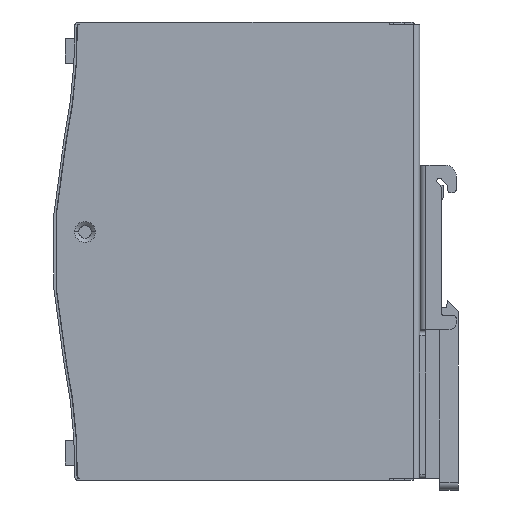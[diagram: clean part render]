
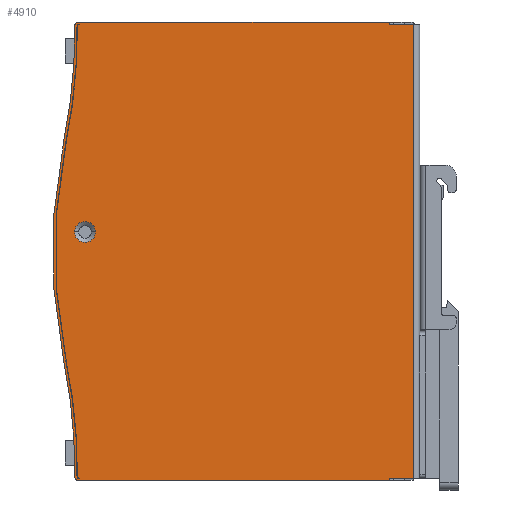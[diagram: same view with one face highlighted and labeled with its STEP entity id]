
A CAD part, front view. The second image highlights one B-rep face of the part: STEP entity #4910.
In plain terms, the highlighted planar face has unit normal (0, -1, 0).
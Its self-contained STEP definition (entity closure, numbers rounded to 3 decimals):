
#2430=CARTESIAN_POINT('',(1671.393,18.486,
8923.141));
#2440=VERTEX_POINT('',#2430);
#2470=CARTESIAN_POINT('',(1754.346,18.486,
8923.141));
#2480=DIRECTION('',(1.,0.,0.));
#2490=VECTOR('',#2480,1.);
#2500=LINE('',#2470,#2490);
#2510=CARTESIAN_POINT('',(1678.06,18.486,8923.141));
#2520=VERTEX_POINT('',#2510);
#2530=EDGE_CURVE('',#2440,#2520,#2500,.T.);
#2730=CARTESIAN_POINT('',(1768.013,18.486,
8997.141));
#2740=DIRECTION('',(0.,-1.,0.));
#2750=DIRECTION('',(1.,0.,0.));
#2760=AXIS2_PLACEMENT_3D('',#2730,#2740,#2750);
#2770=PLANE('',#2760);
#2780=CARTESIAN_POINT('',(1761.194,18.486,
8979.891));
#2790=DIRECTION('',(0.,1.,0.));
#2800=DIRECTION('',(1.,0.,0.));
#2810=AXIS2_PLACEMENT_3D('',#2780,#2790,#2800);
#2820=CIRCLE('',#2810,2.85);
#2830=CARTESIAN_POINT('',(1758.344,18.486,
8979.891));
#2840=VERTEX_POINT('',#2830);
#2850=CARTESIAN_POINT('',(1764.044,18.486,
8979.891));
#2860=VERTEX_POINT('',#2850);
#2870=EDGE_CURVE('',#2840,#2860,#2820,.T.);
#2880=ORIENTED_EDGE('',*,*,#2870,.T.);
#2890=EDGE_CURVE('',#2860,#2840,#2820,.T.);
#2900=ORIENTED_EDGE('',*,*,#2890,.T.);
#2910=EDGE_LOOP('',(#2900,#2880));
#2920=FACE_BOUND('',#2910,.T.);
#2930=CARTESIAN_POINT('',(1913.278,18.486,
9045.16));
#2940=DIRECTION('',(0.,-1.,0.));
#2950=DIRECTION('',(0.,0.,1.));
#2960=AXIS2_PLACEMENT_3D('',#2930,#2940,#2950);
#2970=CIRCLE('',#2960,150.);
#2980=CARTESIAN_POINT('',(1763.285,18.486,
9046.636));
#2990=VERTEX_POINT('',#2980);
#3000=CARTESIAN_POINT('',(1766.311,18.486,
9015.151));
#3010=VERTEX_POINT('',#3000);
#3020=EDGE_CURVE('',#2990,#3010,#2970,.T.);
#3030=ORIENTED_EDGE('',*,*,#3020,.F.);
#3040=CARTESIAN_POINT('',(1619.343,18.486,
8985.141));
#3050=DIRECTION('',(0.,-1.,0.));
#3060=DIRECTION('',(0.,0.,1.));
#3070=AXIS2_PLACEMENT_3D('',#3040,#3050,#3060);
#3080=CIRCLE('',#3070,150.);
#3090=CARTESIAN_POINT('',(1766.311,18.486,
8955.131));
#3100=VERTEX_POINT('',#3090);
#3110=EDGE_CURVE('',#3100,#3010,#3080,.T.);
#3120=ORIENTED_EDGE('',*,*,#3110,.T.);
#3130=CARTESIAN_POINT('',(1913.278,18.486,
8925.122));
#3140=DIRECTION('',(0.,-1.,0.));
#3150=DIRECTION('',(0.,0.,1.));
#3160=AXIS2_PLACEMENT_3D('',#3130,#3140,#3150);
#3170=CIRCLE('',#3160,150.);
#3180=CARTESIAN_POINT('',(1763.285,18.486,
8923.646));
#3190=VERTEX_POINT('',#3180);
#3200=EDGE_CURVE('',#3100,#3190,#3170,.T.);
#3210=ORIENTED_EDGE('',*,*,#3200,.F.);
#3220=CARTESIAN_POINT('',(1762.785,18.486,
8923.641));
#3230=DIRECTION('',(0.,-1.,0.));
#3240=DIRECTION('',(1.,0.,0.));
#3250=AXIS2_PLACEMENT_3D('',#3220,#3230,#3240);
#3260=CIRCLE('',#3250,0.5);
#3270=CARTESIAN_POINT('',(1762.785,18.486,8923.141));
#3280=VERTEX_POINT('',#3270);
#3290=EDGE_CURVE('',#3280,#3190,#3260,.T.);
#3300=ORIENTED_EDGE('',*,*,#3290,.T.);
#3310=CARTESIAN_POINT('',(1668.443,18.486,8923.141));
#3320=DIRECTION('',(1.,0.,0.));
#3330=VECTOR('',#3320,1.);
#3340=LINE('',#3310,#3330);
#3350=CARTESIAN_POINT('',(1762.884,18.486,8923.141));
#3360=VERTEX_POINT('',#3350);
#3370=EDGE_CURVE('',#3280,#3360,#3340,.T.);
#3380=ORIENTED_EDGE('',*,*,#3370,.F.);
#3390=CARTESIAN_POINT('',(1762.884,18.486,8923.641));
#3400=DIRECTION('',(0.,-1.,0.));
#3410=DIRECTION('',(1.,0.,0.));
#3420=AXIS2_PLACEMENT_3D('',#3390,#3400,#3410);
#3430=CIRCLE('',#3420,0.5);
#3440=CARTESIAN_POINT('',(1763.384,18.486,8923.646));
#3450=VERTEX_POINT('',#3440);
#3460=EDGE_CURVE('',#3360,#3450,#3430,.T.);
#3470=ORIENTED_EDGE('',*,*,#3460,.F.);
#3480=CARTESIAN_POINT('',(1914.409,18.486,8925.028));
#3490=DIRECTION('',(0.,-1.,0.));
#3500=DIRECTION('',(1.,0.,0.));
#3510=AXIS2_PLACEMENT_3D('',#3480,#3490,#3500);
#3520=CIRCLE('',#3510,151.031);
#3530=CARTESIAN_POINT('',(1766.413,18.486,8955.151));
#3540=VERTEX_POINT('',#3530);
#3550=EDGE_CURVE('',#3540,#3450,#3520,.T.);
#3560=ORIENTED_EDGE('',*,*,#3550,.T.);
#3570=CARTESIAN_POINT('',(1619.543,18.486,8985.141));
#3580=DIRECTION('',(0.,-1.,0.));
#3590=DIRECTION('',(1.,0.,0.));
#3600=AXIS2_PLACEMENT_3D('',#3570,#3580,#3590);
#3610=CIRCLE('',#3600,149.9);
#3620=CARTESIAN_POINT('',(1766.413,18.486,9015.131));
#3630=VERTEX_POINT('',#3620);
#3640=EDGE_CURVE('',#3540,#3630,#3610,.T.);
#3650=ORIENTED_EDGE('',*,*,#3640,.F.);
#3660=CARTESIAN_POINT('',(1914.409,18.486,9045.254));
#3670=DIRECTION('',(0.,-1.,0.));
#3680=DIRECTION('',(1.,0.,0.));
#3690=AXIS2_PLACEMENT_3D('',#3660,#3670,#3680);
#3700=CIRCLE('',#3690,151.031);
#3710=CARTESIAN_POINT('',(1763.384,18.486,9046.636));
#3720=VERTEX_POINT('',#3710);
#3730=EDGE_CURVE('',#3720,#3630,#3700,.T.);
#3740=ORIENTED_EDGE('',*,*,#3730,.T.);
#3750=CARTESIAN_POINT('',(1762.884,18.486,9046.641));
#3760=DIRECTION('',(0.,-1.,0.));
#3770=DIRECTION('',(1.,0.,0.));
#3780=AXIS2_PLACEMENT_3D('',#3750,#3760,#3770);
#3790=CIRCLE('',#3780,0.5);
#3800=CARTESIAN_POINT('',(1762.884,18.486,9047.141));
#3810=VERTEX_POINT('',#3800);
#3820=EDGE_CURVE('',#3720,#3810,#3790,.T.);
#3830=ORIENTED_EDGE('',*,*,#3820,.F.);
#3840=CARTESIAN_POINT('',(1759.25,18.486,9047.141));
#3850=DIRECTION('',(-1.,0.,0.));
#3860=VECTOR('',#3850,1.);
#3870=LINE('',#3840,#3860);
#3880=CARTESIAN_POINT('',(1762.785,18.486,9047.141));
#3890=VERTEX_POINT('',#3880);
#3900=EDGE_CURVE('',#3810,#3890,#3870,.T.);
#3910=ORIENTED_EDGE('',*,*,#3900,.F.);
#3920=CARTESIAN_POINT('',(1762.785,18.486,
9046.641));
#3930=DIRECTION('',(0.,-1.,0.));
#3940=DIRECTION('',(1.,0.,0.));
#3950=AXIS2_PLACEMENT_3D('',#3920,#3930,#3940);
#3960=CIRCLE('',#3950,0.5);
#3970=EDGE_CURVE('',#2990,#3890,#3960,.T.);
#3980=ORIENTED_EDGE('',*,*,#3970,.T.);
#3990=EDGE_LOOP('',(#3980,#3910,#3830,#3740,#3650,#3560,#3470,#3380,
#3300,#3210,#3120,#3030));
#4000=FACE_BOUND('',#3990,.T.);
#4010=CARTESIAN_POINT('',(1678.06,18.486,31.311));
#4020=DIRECTION('',(0.,0.,1.));
#4030=VECTOR('',#4020,1.);
#4040=LINE('',#4010,#4030);
#4050=CARTESIAN_POINT('',(1678.06,18.486,9047.141));
#4060=VERTEX_POINT('',#4050);
#4070=CARTESIAN_POINT('',(1678.06,18.486,9047.741));
#4080=VERTEX_POINT('',#4070);
#4090=EDGE_CURVE('',#4060,#4080,#4040,.T.);
#4100=ORIENTED_EDGE('',*,*,#4090,.F.);
#4110=CARTESIAN_POINT('',(1667.843,18.486,9047.741));
#4120=DIRECTION('',(1.,0.,0.));
#4130=VECTOR('',#4120,1.);
#4140=LINE('',#4110,#4130);
#4150=CARTESIAN_POINT('',(1762.985,18.486,9047.741));
#4160=VERTEX_POINT('',#4150);
#4170=EDGE_CURVE('',#4080,#4160,#4140,.T.);
#4180=ORIENTED_EDGE('',*,*,#4170,.F.);
#4190=CARTESIAN_POINT('',(1762.985,18.486,9046.741));
#4200=DIRECTION('',(0.,-1.,0.));
#4210=DIRECTION('',(1.,0.,0.));
#4220=AXIS2_PLACEMENT_3D('',#4190,#4200,#4210);
#4230=CIRCLE('',#4220,1.);
#4240=CARTESIAN_POINT('',(1763.985,18.486,9046.731));
#4250=VERTEX_POINT('',#4240);
#4260=EDGE_CURVE('',#4250,#4160,#4230,.T.);
#4270=ORIENTED_EDGE('',*,*,#4260,.T.);
#4280=CARTESIAN_POINT('',(1914.392,18.486,9045.252));
#4290=DIRECTION('',(0.,-1.,0.));
#4300=DIRECTION('',(1.,0.,0.));
#4310=AXIS2_PLACEMENT_3D('',#4280,#4290,#4300);
#4320=CIRCLE('',#4310,150.414);
#4330=CARTESIAN_POINT('',(1767.001,18.486,9015.251));
#4340=VERTEX_POINT('',#4330);
#4350=EDGE_CURVE('',#4250,#4340,#4320,.T.);
#4360=ORIENTED_EDGE('',*,*,#4350,.F.);
#4370=CARTESIAN_POINT('',(1619.543,18.486,8985.141));
#4380=DIRECTION('',(0.,-1.,0.));
#4390=DIRECTION('',(1.,0.,0.));
#4400=AXIS2_PLACEMENT_3D('',#4370,#4380,#4390);
#4410=CIRCLE('',#4400,150.5);
#4420=CARTESIAN_POINT('',(1767.001,18.486,8955.031));
#4430=VERTEX_POINT('',#4420);
#4440=EDGE_CURVE('',#4430,#4340,#4410,.T.);
#4450=ORIENTED_EDGE('',*,*,#4440,.T.);
#4460=CARTESIAN_POINT('',(1914.392,18.486,8925.03));
#4470=DIRECTION('',(0.,-1.,0.));
#4480=DIRECTION('',(1.,0.,0.));
#4490=AXIS2_PLACEMENT_3D('',#4460,#4470,#4480);
#4500=CIRCLE('',#4490,150.414);
#4510=CARTESIAN_POINT('',(1763.985,18.486,8923.551));
#4520=VERTEX_POINT('',#4510);
#4530=EDGE_CURVE('',#4430,#4520,#4500,.T.);
#4540=ORIENTED_EDGE('',*,*,#4530,.F.);
#4550=CARTESIAN_POINT('',(1762.985,18.486,8923.541));
#4560=DIRECTION('',(0.,-1.,0.));
#4570=DIRECTION('',(1.,0.,0.));
#4580=AXIS2_PLACEMENT_3D('',#4550,#4560,#4570);
#4590=CIRCLE('',#4580,1.);
#4600=CARTESIAN_POINT('',(1762.985,18.486,8922.541));
#4610=VERTEX_POINT('',#4600);
#4620=EDGE_CURVE('',#4610,#4520,#4590,.T.);
#4630=ORIENTED_EDGE('',*,*,#4620,.T.);
#4640=CARTESIAN_POINT('',(1759.351,18.486,8922.541));
#4650=DIRECTION('',(-1.,0.,0.));
#4660=VECTOR('',#4650,1.);
#4670=LINE('',#4640,#4660);
#4680=CARTESIAN_POINT('',(1678.06,18.486,
8922.541));
#4690=VERTEX_POINT('',#4680);
#4700=EDGE_CURVE('',#4610,#4690,#4670,.T.);
#4710=ORIENTED_EDGE('',*,*,#4700,.F.);
#4720=EDGE_CURVE('',#4690,#2520,#4040,.T.);
#4730=ORIENTED_EDGE('',*,*,#4720,.F.);
#4740=ORIENTED_EDGE('',*,*,#2530,.T.);
#4750=CARTESIAN_POINT('',(1671.393,18.486,
8997.141));
#4760=DIRECTION('',(0.,0.,1.));
#4770=VECTOR('',#4760,1.);
#4780=LINE('',#4750,#4770);
#4790=CARTESIAN_POINT('',(1671.393,18.486,9047.141));
#4800=VERTEX_POINT('',#4790);
#4810=EDGE_CURVE('',#2440,#4800,#4780,.T.);
#4820=ORIENTED_EDGE('',*,*,#4810,.F.);
#4830=CARTESIAN_POINT('',(1754.346,18.486,
9047.141));
#4840=DIRECTION('',(1.,0.,0.));
#4850=VECTOR('',#4840,1.);
#4860=LINE('',#4830,#4850);
#4870=EDGE_CURVE('',#4800,#4060,#4860,.T.);
#4880=ORIENTED_EDGE('',*,*,#4870,.F.);
#4890=EDGE_LOOP('',(#4880,#4820,#4740,#4730,#4710,#4630,#4540,#4450,
#4360,#4270,#4180,#4100));
#4900=FACE_OUTER_BOUND('',#4890,.T.);
#4910=ADVANCED_FACE('',(#2920,#4000,#4900),#2770,.T.);
